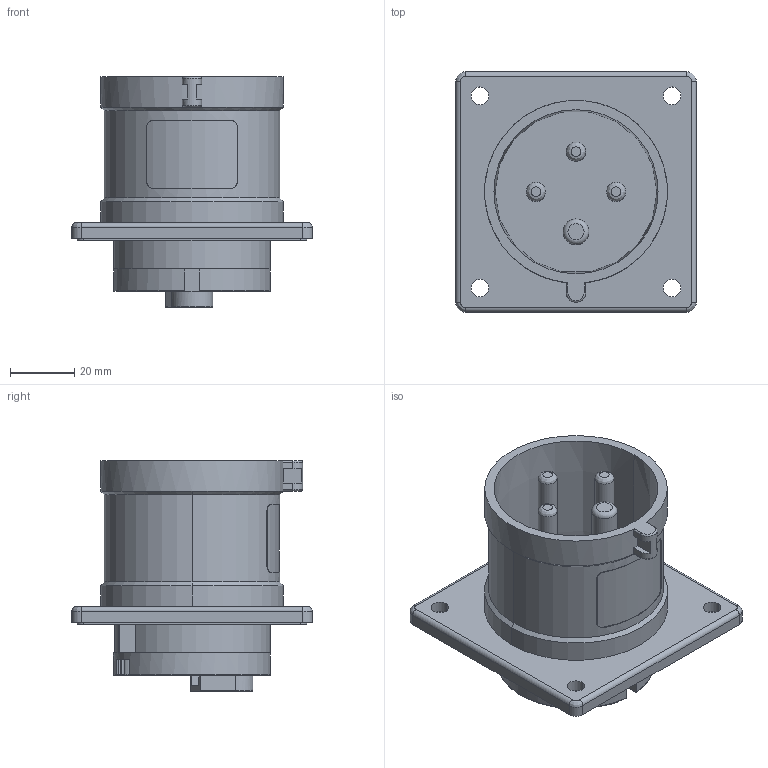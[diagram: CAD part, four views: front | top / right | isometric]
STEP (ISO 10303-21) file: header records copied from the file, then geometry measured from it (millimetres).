
FILE_DESCRIPTION(('FreeCAD Model'),'2;1');
FILE_NAME('Open CASCADE Shape Model','2026-02-04T11:18:22',(''),(''), 'Open CASCADE STEP processor 7.8','FreeCAD','Unknown');
FILE_SCHEMA(('AUTOMOTIVE_DESIGN { 1 0 10303 214 1 1 1 1 }'));
Length unit declared in the file: millimetre
Products named in the file (8): TL3L32443; Base interna; Tomada; Pino L3; Pino Terra; Pino L2; Pino L1; Terminais
Assembly tree (7 placements, depth 2):
  TL3L32443
    Base interna
    Tomada
    Pino L3
    Pino Terra
    Pino L2
    Pino L1
    Terminais
Bounding box: 75 x 75 x 72 mm (x, y, z)
Volume: 56295.4 mm3; surface area: 52319.5 mm2
Topology: 7 solids, 7 shells, 397 faces, 1025 edges, 665 vertices
Faces by surface type: plane 228, cylinder 128, torus 18, cone 12, bspline 7, sphere 4
Full cylindrical faces by diameter (mm): 6 x3, 8 x1
Entity records: 12735 total; most frequent: CARTESIAN_POINT 2597, DIRECTION 2096, ORIENTED_EDGE 2050, EDGE_CURVE 1025, AXIS2_PLACEMENT_3D 705, LINE 686, VECTOR 686, VERTEX_POINT 665
